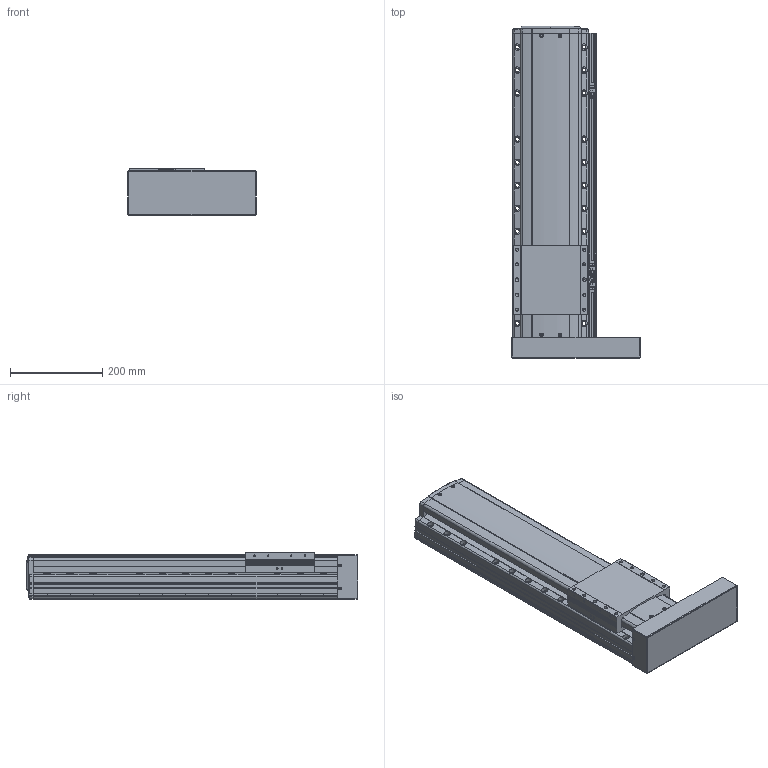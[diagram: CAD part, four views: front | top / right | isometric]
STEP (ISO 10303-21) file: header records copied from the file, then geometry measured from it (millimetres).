
FILE_DESCRIPTION(('STEP AP214'),'1');
FILE_NAME('Z:/Web/3D/PSA165/STP/PSA165-400 (3D)/PSA165ㅁㅁ-400PR+3SR.stp','2014-06-23T11:11:48',(' '),(' '),'Spatial InterOp 3D',' ',' ');
FILE_SCHEMA(('automotive_design'));
Length unit declared in the file: millimetre
Products named in the file (41): 스크루 : Round - M4.0 x 12.0; RRCV-PA160; BASE; 스크루 : Round - M4.0 x 10.0; RN15; Screw 20; SLIDE; FRCV; MTPL; 스크루 : Round - M3.0 x 6.0; M3.0 x 6.0; SRL-16x17-360L; SGD-SAN150; EE-SX674; SBK-SX674-352; BHCS M4.0 x 10.0
Bounding box: 281.93 x 720.8 x 104 mm (x, y, z)
Volume: 10692329.2 mm3; surface area: 829159.8 mm2
Topology: 41 solids, 41 shells, 2492 faces, 6669 edges, 4285 vertices
Faces by surface type: plane 1443, cylinder 735, cone 209, sphere 64, bspline 25, torus 16
Entity records: 100993 total; most frequent: CARTESIAN_POINT 17393, DIRECTION 13287, ORIENTED_EDGE 13062, EDGE_CURVE 6531, AXIS2_PLACEMENT_3D 4433, LINE 4421, VECTOR 4421, VERTEX_POINT 4285
